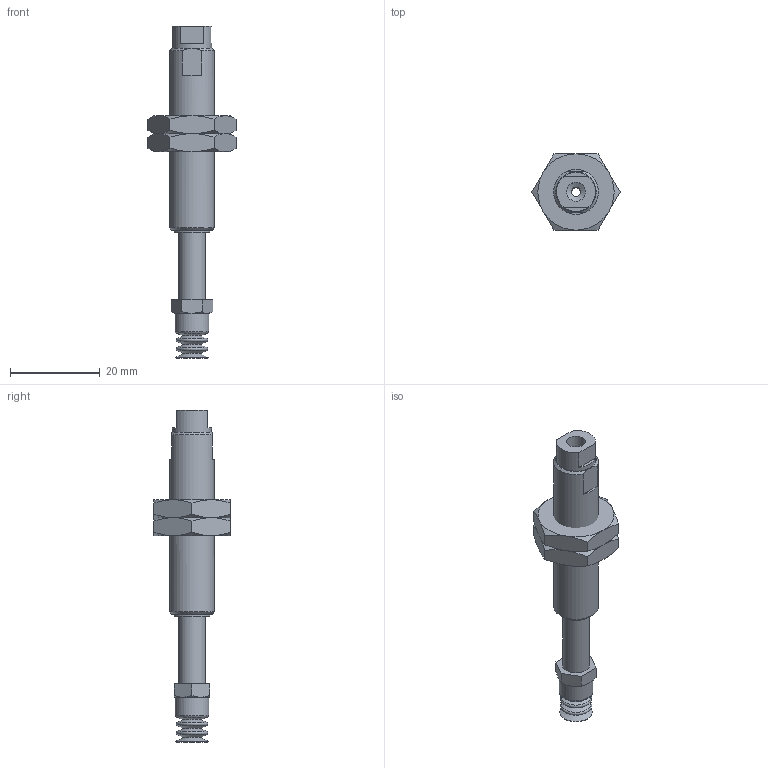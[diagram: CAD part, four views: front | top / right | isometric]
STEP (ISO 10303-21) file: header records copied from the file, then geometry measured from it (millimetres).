
FILE_DESCRIPTION(('STEP AP203'),'1');
FILE_NAME('-LB.stp','2025-10-10T05:42:07',(' '),(' '),'Spatial InterOp 3D',' ',' ');
FILE_SCHEMA(('CONFIG_CONTROL_DESIGN'));
Length unit declared in the file: millimetre
Products named in the file (8): BNABPCTH-7-15-※-LB; NUT; __; BODY; TN-PS-10-M5; Setting screws-TN-PS-10-M5; BPCG-7-※
Assembly tree (7 placements, depth 3):
  BNABPCTH-7-15-※-LB
    NUT
    NUT
    __
    BODY
    TN-PS-10-M5
      Setting screws-TN-PS-10-M5
    BPCG-7-※
Bounding box: 19.63 x 17 x 74 mm (x, y, z)
Volume: 5535 mm3; surface area: 4691.1 mm2
Topology: 6 solids, 6 shells, 133 faces, 276 edges, 163 vertices
Faces by surface type: plane 58, cone 45, cylinder 18, torus 12
Full cylindrical faces by diameter (mm): 2 x3, 3.9 x1, 4 x2, 4.2 x2, 5 x1, 6 x3, 7.5 x1, 8 x1, 8.7 x1, 9 x2, 10 x1
Entity records: 3754 total; most frequent: CARTESIAN_POINT 762, DIRECTION 552, ORIENTED_EDGE 458, AXIS2_PLACEMENT_3D 245, EDGE_CURVE 229, EDGE_LOOP 196, FACE_OUTER_BOUND 163, VERTEX_POINT 159
